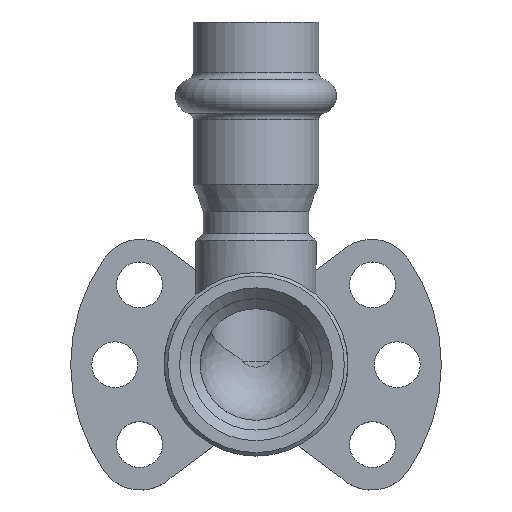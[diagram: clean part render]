
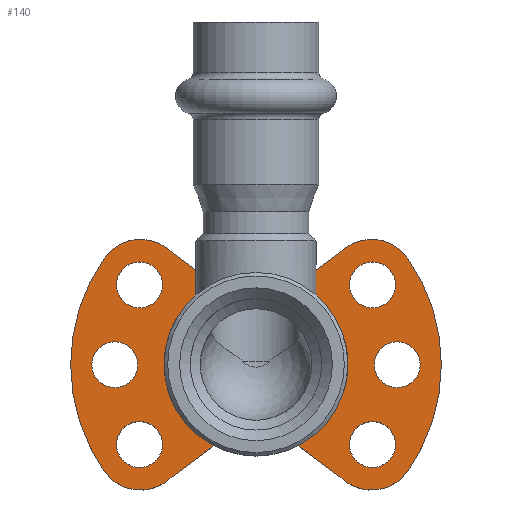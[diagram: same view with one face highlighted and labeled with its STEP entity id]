
A CAD part, top view. The second image highlights one B-rep face of the part: STEP entity #140.
In plain terms, the highlighted planar face has unit normal (0, 0, 1).
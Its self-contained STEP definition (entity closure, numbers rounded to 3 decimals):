
#140=ADVANCED_FACE('',(#952,#954,#956,#958,#960,#962,#964),#966,.F.);
#952=FACE_BOUND('',#953,.T.);
#953=EDGE_LOOP('',(#2436,#2437,#2438,#2439,#2440,#2441,#2442,#2443,#2444,#2445,#2446,
#2447,#2448,#2449,#2450,#2451,#2452,#2453));
#954=FACE_BOUND('',#955,.T.);
#955=EDGE_LOOP('',(#2454));
#956=FACE_BOUND('',#957,.T.);
#957=EDGE_LOOP('',(#2455));
#958=FACE_BOUND('',#959,.T.);
#959=EDGE_LOOP('',(#2456));
#960=FACE_BOUND('',#961,.T.);
#961=EDGE_LOOP('',(#2457));
#962=FACE_BOUND('',#963,.T.);
#963=EDGE_LOOP('',(#2458));
#964=FACE_BOUND('',#965,.T.);
#965=EDGE_LOOP('',(#2459));
#966=PLANE('',#967);
#967=AXIS2_PLACEMENT_3D('',#968,#969,#970);
#968=CARTESIAN_POINT('',(0.,0.,-12.));
#969=DIRECTION('',(0.,0.,-1.));
#970=DIRECTION('',(-1.,0.,0.));
#2436=ORIENTED_EDGE('',*,*,#3780,.F.);
#2437=ORIENTED_EDGE('',*,*,#3640,.T.);
#2438=ORIENTED_EDGE('',*,*,#3636,.F.);
#2439=ORIENTED_EDGE('',*,*,#3781,.F.);
#2440=ORIENTED_EDGE('',*,*,#3782,.F.);
#2441=ORIENTED_EDGE('',*,*,#3783,.F.);
#2442=ORIENTED_EDGE('',*,*,#3784,.F.);
#2443=ORIENTED_EDGE('',*,*,#3785,.F.);
#2444=ORIENTED_EDGE('',*,*,#3786,.T.);
#2445=ORIENTED_EDGE('',*,*,#3787,.T.);
#2446=ORIENTED_EDGE('',*,*,#3788,.T.);
#2447=ORIENTED_EDGE('',*,*,#3789,.T.);
#2448=ORIENTED_EDGE('',*,*,#3790,.T.);
#2449=ORIENTED_EDGE('',*,*,#3791,.T.);
#2450=ORIENTED_EDGE('',*,*,#3632,.T.);
#2451=ORIENTED_EDGE('',*,*,#3629,.T.);
#2452=ORIENTED_EDGE('',*,*,#3779,.F.);
#2453=ORIENTED_EDGE('',*,*,#3792,.T.);
#2454=ORIENTED_EDGE('',*,*,#3793,.T.);
#2455=ORIENTED_EDGE('',*,*,#3794,.T.);
#2456=ORIENTED_EDGE('',*,*,#3795,.T.);
#2457=ORIENTED_EDGE('',*,*,#3796,.F.);
#2458=ORIENTED_EDGE('',*,*,#3797,.F.);
#2459=ORIENTED_EDGE('',*,*,#3798,.F.);
#3629=EDGE_CURVE('',#4436,#4434,#4437,.T.);
#3632=EDGE_CURVE('',#4440,#4436,#4441,.T.);
#3636=EDGE_CURVE('',#4446,#4448,#4449,.T.);
#3640=EDGE_CURVE('',#4452,#4448,#4455,.F.);
#3779=EDGE_CURVE('',#4676,#4434,#4678,.F.);
#3780=EDGE_CURVE('',#4452,#4679,#4680,.F.);
#3781=EDGE_CURVE('',#4681,#4446,#4682,.T.);
#3782=EDGE_CURVE('',#4683,#4681,#4684,.T.);
#3783=EDGE_CURVE('',#4685,#4683,#4686,.T.);
#3784=EDGE_CURVE('',#4687,#4685,#4688,.T.);
#3785=EDGE_CURVE('',#4689,#4687,#4690,.T.);
#3786=EDGE_CURVE('',#4689,#4691,#4692,.T.);
#3787=EDGE_CURVE('',#4691,#4693,#4694,.T.);
#3788=EDGE_CURVE('',#4693,#4695,#4696,.T.);
#3789=EDGE_CURVE('',#4695,#4697,#4698,.T.);
#3790=EDGE_CURVE('',#4697,#4699,#4700,.T.);
#3791=EDGE_CURVE('',#4699,#4440,#4701,.T.);
#3792=EDGE_CURVE('',#4676,#4679,#4702,.F.);
#3793=EDGE_CURVE('',#4703,#4703,#4704,.T.);
#3794=EDGE_CURVE('',#4705,#4705,#4706,.T.);
#3795=EDGE_CURVE('',#4707,#4707,#4708,.T.);
#3796=EDGE_CURVE('',#4709,#4709,#4710,.T.);
#3797=EDGE_CURVE('',#4711,#4711,#4712,.T.);
#3798=EDGE_CURVE('',#4713,#4713,#4714,.T.);
#4434=VERTEX_POINT('',#7152);
#4436=VERTEX_POINT('',#7156);
#4437=LINE('',#7157,#7158);
#4440=VERTEX_POINT('',#7167);
#4441=LINE('',#7168,#7169);
#4446=VERTEX_POINT('',#7179);
#4448=VERTEX_POINT('',#7183);
#4449=LINE('',#7184,#7185);
#4452=VERTEX_POINT('',#7191);
#4455=LINE('',#7199,#7200);
#4676=VERTEX_POINT('',#7979);
#4678=CIRCLE('',#7983,1.);
#4679=VERTEX_POINT('',#7987);
#4680=CIRCLE('',#7988,1.);
#4681=VERTEX_POINT('',#7992);
#4682=LINE('',#7993,#7994);
#4683=VERTEX_POINT('',#7996);
#4684=CIRCLE('',#7997,6.25);
#4685=VERTEX_POINT('',#8001);
#4686=CIRCLE('',#8002,26.25);
#4687=VERTEX_POINT('',#8006);
#4688=CIRCLE('',#8007,6.25);
#4689=VERTEX_POINT('',#8011);
#4690=LINE('',#8012,#8013);
#4691=VERTEX_POINT('',#8015);
#4692=LINE('',#8016,#8017);
#4693=VERTEX_POINT('',#8019);
#4694=LINE('',#8020,#8021);
#4695=VERTEX_POINT('',#8023);
#4696=CIRCLE('',#8024,6.25);
#4697=VERTEX_POINT('',#8028);
#4698=CIRCLE('',#8029,26.25);
#4699=VERTEX_POINT('',#8033);
#4700=CIRCLE('',#8034,6.25);
#4701=LINE('',#8038,#8039);
#4702=LINE('',#8041,#8042);
#4703=VERTEX_POINT('',#8044);
#4704=CIRCLE('',#8045,3.25);
#4705=VERTEX_POINT('',#8049);
#4706=CIRCLE('',#8050,3.25);
#4707=VERTEX_POINT('',#8054);
#4708=CIRCLE('',#8055,3.25);
#4709=VERTEX_POINT('',#8059);
#4710=CIRCLE('',#8060,3.25);
#4711=VERTEX_POINT('',#8064);
#4712=CIRCLE('',#8065,3.25);
#4713=VERTEX_POINT('',#8069);
#4714=CIRCLE('',#8070,3.25);
#7152=CARTESIAN_POINT('',(4.,-4.25,-12.));
#7156=CARTESIAN_POINT('',(4.,10.75,-12.));
#7157=CARTESIAN_POINT('',(4.,10.75,-12.));
#7158=VECTOR('',#7159,1.);
#7159=DIRECTION('',(0.,-1.,0.));
#7167=CARTESIAN_POINT('',(5.,10.75,-12.));
#7168=CARTESIAN_POINT('',(5.,10.75,-12.));
#7169=VECTOR('',#7170,1.);
#7170=DIRECTION('',(-1.,0.,0.));
#7179=CARTESIAN_POINT('',(-5.,10.75,-12.));
#7183=CARTESIAN_POINT('',(-4.,10.75,-12.));
#7184=CARTESIAN_POINT('',(-5.,10.75,-12.));
#7185=VECTOR('',#7186,1.);
#7186=DIRECTION('',(1.,0.,0.));
#7191=CARTESIAN_POINT('',(-4.,-4.25,-12.));
#7199=CARTESIAN_POINT('',(-4.,10.75,-12.));
#7200=VECTOR('',#7201,1.);
#7201=DIRECTION('',(0.,-1.,0.));
#7979=CARTESIAN_POINT('',(3.,-5.25,-12.));
#7983=AXIS2_PLACEMENT_3D('',#7984,#7985,#7986);
#7984=CARTESIAN_POINT('',(3.,-4.25,-12.));
#7985=DIRECTION('',(0.,0.,-1.));
#7986=DIRECTION('',(1.,0.,0.));
#7987=CARTESIAN_POINT('',(-3.,-5.25,-12.));
#7988=AXIS2_PLACEMENT_3D('',#7989,#7990,#7991);
#7989=CARTESIAN_POINT('',(-3.,-4.25,-12.));
#7990=DIRECTION('',(0.,0.,-1.));
#7991=DIRECTION('',(0.,-1.,0.));
#7992=CARTESIAN_POINT('',(-12.019,15.993,-12.));
#7993=CARTESIAN_POINT('',(-12.019,15.993,-12.));
#7994=VECTOR('',#7995,1.);
#7995=DIRECTION('',(0.801,-0.598,0.));
#7996=CARTESIAN_POINT('',(-21.477,15.094,-12.));
#7997=AXIS2_PLACEMENT_3D('',#7998,#7999,#8000);
#7998=CARTESIAN_POINT('',(-16.363,11.5,-12.));
#7999=DIRECTION('',(0.,0.,-1.));
#8000=DIRECTION('',(-0.818,0.575,0.));
#8001=CARTESIAN_POINT('',(-21.477,-15.094,-12.));
#8002=AXIS2_PLACEMENT_3D('',#8003,#8004,#8005);
#8003=CARTESIAN_POINT('',(0.,0.,-12.));
#8004=DIRECTION('',(0.,0.,-1.));
#8005=DIRECTION('',(-0.818,-0.575,0.));
#8006=CARTESIAN_POINT('',(-12.019,-15.993,-12.));
#8007=AXIS2_PLACEMENT_3D('',#8008,#8009,#8010);
#8008=CARTESIAN_POINT('',(-16.363,-11.5,-12.));
#8009=DIRECTION('',(0.,0.,-1.));
#8010=DIRECTION('',(0.695,-0.719,0.));
#8011=CARTESIAN_POINT('',(-5.,-10.75,-12.));
#8012=CARTESIAN_POINT('',(-5.,-10.75,-12.));
#8013=VECTOR('',#8014,1.);
#8014=DIRECTION('',(-0.801,-0.598,0.));
#8015=CARTESIAN_POINT('',(5.,-10.75,-12.));
#8016=CARTESIAN_POINT('',(-5.,-10.75,-12.));
#8017=VECTOR('',#8018,1.);
#8018=DIRECTION('',(1.,0.,0.));
#8019=CARTESIAN_POINT('',(12.019,-15.993,-12.));
#8020=CARTESIAN_POINT('',(5.,-10.75,-12.));
#8021=VECTOR('',#8022,1.);
#8022=DIRECTION('',(0.801,-0.598,0.));
#8023=CARTESIAN_POINT('',(21.477,-15.094,-12.));
#8024=AXIS2_PLACEMENT_3D('',#8025,#8026,#8027);
#8025=CARTESIAN_POINT('',(16.363,-11.5,-12.));
#8026=DIRECTION('',(0.,0.,1.));
#8027=DIRECTION('',(-0.695,-0.719,0.));
#8028=CARTESIAN_POINT('',(21.477,15.094,-12.));
#8029=AXIS2_PLACEMENT_3D('',#8030,#8031,#8032);
#8030=CARTESIAN_POINT('',(0.,0.,-12.));
#8031=DIRECTION('',(0.,0.,1.));
#8032=DIRECTION('',(0.818,-0.575,0.));
#8033=CARTESIAN_POINT('',(12.019,15.993,-12.));
#8034=AXIS2_PLACEMENT_3D('',#8035,#8036,#8037);
#8035=CARTESIAN_POINT('',(16.363,11.5,-12.));
#8036=DIRECTION('',(0.,0.,1.));
#8037=DIRECTION('',(0.818,0.575,0.));
#8038=CARTESIAN_POINT('',(12.019,15.993,-12.));
#8039=VECTOR('',#8040,1.);
#8040=DIRECTION('',(-0.801,-0.598,0.));
#8041=CARTESIAN_POINT('',(-3.,-5.25,-12.));
#8042=VECTOR('',#8043,1.);
#8043=DIRECTION('',(1.,0.,0.));
#8044=CARTESIAN_POINT('',(-19.75,-11.303,-12.));
#8045=AXIS2_PLACEMENT_3D('',#8046,#8047,#8048);
#8046=CARTESIAN_POINT('',(-16.5,-11.303,-12.));
#8047=DIRECTION('',(0.,0.,-1.));
#8048=DIRECTION('',(-1.,0.,0.));
#8049=CARTESIAN_POINT('',(-19.75,11.303,-12.));
#8050=AXIS2_PLACEMENT_3D('',#8051,#8052,#8053);
#8051=CARTESIAN_POINT('',(-16.5,11.303,-12.));
#8052=DIRECTION('',(0.,0.,-1.));
#8053=DIRECTION('',(-1.,0.,0.));
#8054=CARTESIAN_POINT('',(-23.25,0.,-12.));
#8055=AXIS2_PLACEMENT_3D('',#8056,#8057,#8058);
#8056=CARTESIAN_POINT('',(-20.,0.,-12.));
#8057=DIRECTION('',(0.,0.,-1.));
#8058=DIRECTION('',(-1.,0.,0.));
#8059=CARTESIAN_POINT('',(23.25,0.,-12.));
#8060=AXIS2_PLACEMENT_3D('',#8061,#8062,#8063);
#8061=CARTESIAN_POINT('',(20.,0.,-12.));
#8062=DIRECTION('',(0.,0.,1.));
#8063=DIRECTION('',(1.,0.,0.));
#8064=CARTESIAN_POINT('',(19.75,11.303,-12.));
#8065=AXIS2_PLACEMENT_3D('',#8066,#8067,#8068);
#8066=CARTESIAN_POINT('',(16.5,11.303,-12.));
#8067=DIRECTION('',(0.,0.,1.));
#8068=DIRECTION('',(1.,0.,0.));
#8069=CARTESIAN_POINT('',(19.75,-11.303,-12.));
#8070=AXIS2_PLACEMENT_3D('',#8071,#8072,#8073);
#8071=CARTESIAN_POINT('',(16.5,-11.303,-12.));
#8072=DIRECTION('',(0.,0.,1.));
#8073=DIRECTION('',(1.,0.,0.));
